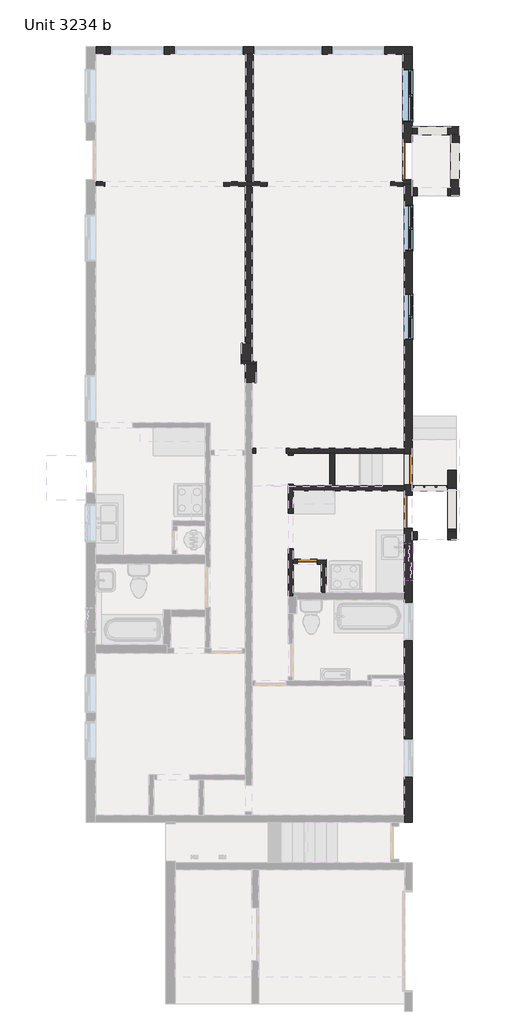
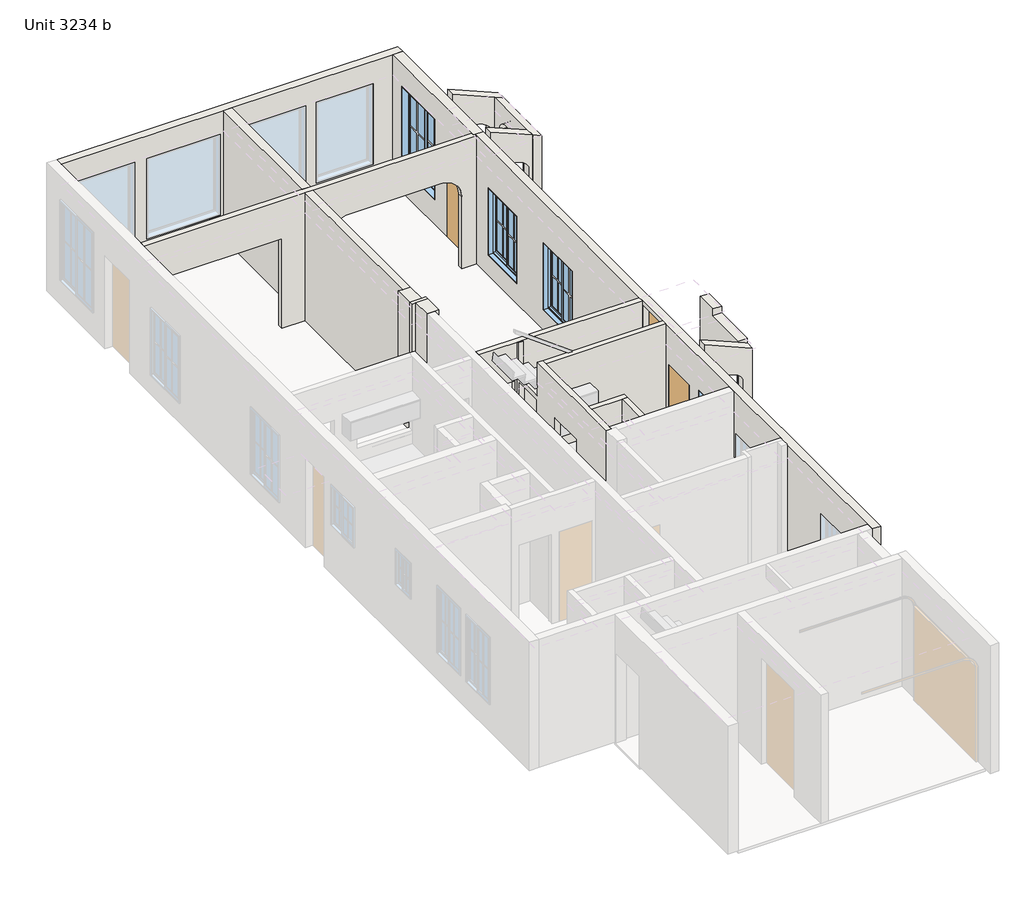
# One storey, part 2 of 3: 23 walls, 4 doors, 4 windows.
"""IFC4 building model written with IfcOpenShell, lengths in millimetres."""

from ifc_helpers import new_model, si_unit, point, frame, frame_2d, origin, origin_with_axes, place, context, project, spatial, polyline, circle_curve, trimmed, segment, composite_curve, outline, extrude, faceted_brep, transform, mapped, element, save
from ifc_brep_helpers import plane_surface, revolved_surface, advanced_brep
from components import door_06143b9a, door_70dd2ab3, door_c6f7bf39, door_4489987b, window_eecfb043, window_40bee93f, window_37b48831

model = new_model("IFC4")

# Units and contexts
model_context = context("Model", 3, world=origin())
ifc_project = project(units=[si_unit("LENGTHUNIT", "METRE", prefix="MILLI")], contexts=[model_context])

# Site, building, storey
site = spatial("IfcSite", under=ifc_project)
building = spatial("IfcBuilding", under=site)
storey = spatial("IfcBuildingStorey", under=building, Name="Unit 3234 b", Elevation=0.0)

# Doors
placement = place(None, origin())
door_shape = door_06143b9a(model_context)
element("IfcDoor", 1, ObjectType="Planitar - Single Door_Flush Panel : 1'-6\" x 6'-8\"", at=placement, inside=storey, context=model_context, shape_type="MappedRepresentation", body=[
    mapped(door_shape, transform((1578.5447598, 647.0538353, 0.0), x_axis=(1.0, 0.0, 0.0), y_axis=(0.0, 1.0, 0.0), z_axis=(0.0, 0.0, 1.0))),
])
door_2_shape = door_70dd2ab3(model_context)
element("IfcDoor", 2, ObjectType="Planitar - Single Door_Flush Panel : 2'-10\" x 6'-8\"", at=placement, inside=storey, context=model_context, shape_type="MappedRepresentation", body=[
    mapped(door_2_shape, transform((3886.7697598, 9892.6538353, 0.0), x_axis=(0.0, 1.0, 0.0), y_axis=(-1.0, 0.0, 0.0), z_axis=(0.0, 0.0, 1.0))),
])
door_3_shape = door_c6f7bf39(model_context)
element("IfcDoor", 3, ObjectType="Planitar - Single Door_Flush Panel : 2'-4\" x 6'-8\"", at=placement, inside=storey, context=model_context, shape_type="MappedRepresentation", body=[
    mapped(door_3_shape, transform((3905.8197598, 2780.6538353, 762.0), x_axis=(0.0, -1.0, 0.0), y_axis=(1.0, 0.0, 0.0), z_axis=(0.0, 0.0, 1.0))),
])
door_4_shape = door_4489987b(model_context)
element("IfcDoor", 4, ObjectType="Planitar - Single Door_Flush Panel : 2'-6\" x 6'-8\"", at=placement, inside=storey, context=model_context, shape_type="MappedRepresentation", body=[
    mapped(door_4_shape, transform((3905.8197598, 1802.7538353, 0.0), x_axis=(0.0, 1.0, 0.0), y_axis=(-1.0, 0.0, 0.0), z_axis=(0.0, 0.0, 1.0))),
])

# Walls
element("IfcWall", 5, ObjectType="Planitar - Generic 7\"", at=placement, inside=storey, context=model_context, shape_type="Brep", body=[
    faceted_brep([(-3301.4302402, 12350.1038353, 0.0), (159.3197598, 12350.1038353, 0.0), (337.1197598, 12350.1038353, 0.0), (3778.8197598, 12350.1038353, 0.0), (3994.7197598, 12350.1038353, 0.0), (3994.7197598, 12350.1038353, 2895.6), (3778.8197598, 12350.1038353, 2895.6), (337.1197598, 12350.1038353, 2895.6), (159.3197598, 12350.1038353, 2895.6), (-3301.4302402, 12350.1038353, 2895.6), (3366.0697598, 12350.1038353, 558.8), (2146.8697598, 12350.1038353, 558.8), (2146.8697598, 12350.1038353, 2387.6), (3366.0697598, 12350.1038353, 2387.6), (1924.6197598, 12350.1038353, 558.8), (349.8197598, 12350.1038353, 558.8), (349.8197598, 12350.1038353, 2387.6), (1924.6197598, 12350.1038353, 2387.6), (95.8197598, 12350.1038353, 558.8), (-1478.9802402, 12350.1038353, 558.8), (-1478.9802402, 12350.1038353, 2387.6), (95.8197598, 12350.1038353, 2387.6), (-1732.9802402, 12350.1038353, 558.8), (-2952.1802402, 12350.1038353, 558.8), (-2952.1802402, 12350.1038353, 2387.6), (-1732.9802402, 12350.1038353, 2387.6), (-3301.4302402, 12527.9038353, 0.0), (-3301.4302402, 12527.9038353, 2895.6), (3994.7197598, 12527.9038353, 2895.6), (3994.7197598, 12527.9038353, 0.0), (3366.0697598, 12527.9038353, 558.8), (3366.0697598, 12527.9038353, 2387.6), (2146.8697598, 12527.9038353, 2387.6), (2146.8697598, 12527.9038353, 558.8), (1924.6197598, 12527.9038353, 558.8), (1924.6197598, 12527.9038353, 2387.6), (349.8197598, 12527.9038353, 2387.6), (349.8197598, 12527.9038353, 558.8), (95.8197598, 12527.9038353, 558.8), (95.8197598, 12527.9038353, 2387.6), (-1478.9802402, 12527.9038353, 2387.6), (-1478.9802402, 12527.9038353, 558.8), (-1732.9802402, 12527.9038353, 558.8), (-1732.9802402, 12527.9038353, 2387.6), (-2952.1802402, 12527.9038353, 2387.6), (-2952.1802402, 12527.9038353, 558.8)], [[[0, 1, 2, 3, 4, 5, 6, 7, 8, 9], [10, 11, 12, 13], [14, 15, 16, 17], [18, 19, 20, 21], [22, 23, 24, 25]], [[26, 27, 28, 29], [30, 31, 32, 33], [34, 35, 36, 37], [38, 39, 40, 41], [42, 43, 44, 45]], [[4, 3, 2, 1, 0, 26, 29]], [[9, 8, 7, 6, 5, 28, 27]], [[5, 4, 29, 28]], [[0, 9, 27, 26]], [[31, 30, 10, 13]], [[32, 31, 13, 12]], [[33, 32, 12, 11]], [[30, 33, 11, 10]], [[35, 34, 14, 17]], [[36, 35, 17, 16]], [[37, 36, 16, 15]], [[34, 37, 15, 14]], [[39, 38, 18, 21]], [[40, 39, 21, 20]], [[41, 40, 20, 19]], [[38, 41, 19, 18]], [[43, 42, 22, 25]], [[44, 43, 25, 24]], [[45, 44, 24, 23]], [[42, 45, 23, 22]]]),
])
element("IfcWall", 6, ObjectType="Planitar - Generic 8 1/2\"", at=placement, inside=storey, context=model_context, shape_type="Brep", body=[
    faceted_brep([(3778.8197598, 12350.1038353, 0.0), (3778.8197598, 10324.4538353, 0.0), (3778.8197598, 10324.4538353, 2032.0), (3778.8197598, 9460.8538353, 2032.0), (3778.8197598, 9460.8538353, 0.0), (3778.8197598, 9416.4038353, 0.0), (3778.8197598, 9359.2538353, 0.0), (3778.8197598, 9359.2538353, 2895.6), (3778.8197598, 9416.4038353, 2895.6), (3778.8197598, 12350.1038353, 2895.6), (3778.8197598, 12007.2038353, 2387.6), (3778.8197598, 10788.0038353, 2387.6), (3778.8197598, 10788.0038353, 558.8), (3778.8197598, 12007.2038353, 558.8), (3994.7197598, 10324.4538353, 2032.0), (3994.7197598, 10324.4538353, 0.0), (3994.7197598, 10489.5538353, 0.0), (3994.7197598, 10680.0538353, 0.0), (3994.7197598, 12350.1038353, 0.0), (3994.7197598, 12350.1038353, 2895.6), (3994.7197598, 9359.2538353, 2895.6), (3994.7197598, 9359.2538353, 0.0), (3994.7197598, 9460.8538353, 0.0), (3994.7197598, 9460.8538353, 2032.0), (3994.7197598, 12007.2038353, 2387.6), (3994.7197598, 12007.2038353, 558.8), (3994.7197598, 10788.0038353, 558.8), (3994.7197598, 10788.0038353, 2387.6), (3816.9197598, 9359.2538353, 0.0), (3816.9197598, 9359.2538353, 2895.6)], [[[0, 1, 2, 3, 4, 5, 6, 7, 8, 9], [10, 11, 12, 13]], [[14, 15, 16, 17, 18, 19, 20, 21, 22, 23], [24, 25, 26, 27]], [[22, 21, 28, 6, 5, 4]], [[18, 17, 16, 15, 1, 0]], [[7, 6, 28, 21, 20, 29]], [[9, 8, 7, 29, 20, 19]], [[0, 9, 19, 18]], [[2, 1, 15, 14]], [[3, 2, 14, 23]], [[4, 3, 23, 22]], [[25, 24, 10, 13]], [[26, 25, 13, 12]], [[27, 26, 12, 11]], [[24, 27, 11, 10]]]),
])
element("IfcWall", 7, ObjectType="Planitar - Generic 7\"", at=placement, inside=storey, context=model_context, shape_type="Brep", body=[
    faceted_brep([(3816.9197598, 9359.2538353, 0.0), (3816.9197598, 9302.1038353, 0.0), (3816.9197598, 3269.6038353, 0.0), (3816.9197598, 3155.3038353, 0.0), (3816.9197598, 2406.0038353, 0.0), (3816.9197598, 2291.7038353, 0.0), (3816.9197598, 2183.7538353, 0.0), (3816.9197598, 2183.7538353, 2032.0), (3816.9197598, 1421.7538353, 2032.0), (3816.9197598, 1421.7538353, 0.0), (3816.9197598, -57.7961647, 0.0), (3816.9197598, -222.8961647, 0.0), (3816.9197598, -1962.7961647, 0.0), (3816.9197598, -2038.9961647, 0.0), (3816.9197598, -5188.5961647, 0.0), (3816.9197598, -5353.6961647, 0.0), (3816.9197598, -5353.6961647, 2895.6), (3816.9197598, -5188.5961647, 2895.6), (3816.9197598, -2038.9961647, 2895.6), (3816.9197598, -1962.7961647, 2895.6), (3816.9197598, -222.8961647, 2895.6), (3816.9197598, -57.7961647, 2895.6), (3816.9197598, 2291.7038353, 2895.6), (3816.9197598, 2406.0038353, 2895.6), (3816.9197598, 3155.3038353, 2895.6), (3816.9197598, 3269.6038353, 2895.6), (3816.9197598, 9302.1038353, 2895.6), (3816.9197598, 9359.2538353, 2895.6), (3816.9197598, 3136.2538353, 762.0), (3816.9197598, 3136.2538353, 2794.0), (3816.9197598, 2425.0538353, 2794.0), (3816.9197598, 2425.0538353, 762.0), (3816.9197598, -3442.3461647, 2082.8), (3816.9197598, -4305.9461647, 2082.8), (3816.9197598, -4305.9461647, 609.6), (3816.9197598, -3442.3461647, 609.6), (3816.9197598, -292.7461647, 1981.2), (3816.9197598, -1156.3461647, 1981.2), (3816.9197598, -1156.3461647, 914.4), (3816.9197598, -292.7461647, 914.4), (3816.9197598, 1078.8538353, 2133.6), (3816.9197598, 215.2538353, 2133.6), (3816.9197598, 215.2538353, 1219.2), (3816.9197598, 1078.8538353, 1219.2), (3816.9197598, 5765.1538353, 1981.2), (3816.9197598, 5765.1538353, 457.2), (3816.9197598, 6831.9538353, 457.2), (3816.9197598, 6831.9538353, 1981.2), (3816.9197598, 7809.8538353, 1981.2), (3816.9197598, 7809.8538353, 457.2), (3816.9197598, 8876.6538353, 457.2), (3816.9197598, 8876.6538353, 1981.2), (3994.7197598, 2183.7538353, 2032.0), (3994.7197598, 2183.7538353, 0.0), (3994.7197598, 2291.7038353, 0.0), (3994.7197598, 2406.0038353, 0.0), (3994.7197598, 3345.8038353, 0.0), (3994.7197598, 3460.1038353, 0.0), (3994.7197598, 9086.2038353, 0.0), (3994.7197598, 9276.7038353, 0.0), (3994.7197598, 9359.2538353, 0.0), (3994.7197598, 9359.2538353, 2895.6), (3994.7197598, -5353.6961647, 2895.6), (3994.7197598, -5353.6961647, 0.0), (3994.7197598, 1155.0538353, 0.0), (3994.7197598, 1345.5538353, 0.0), (3994.7197598, 1421.7538353, 0.0), (3994.7197598, 1421.7538353, 2032.0), (3994.7197598, 3136.2538353, 762.0), (3994.7197598, 2425.0538353, 762.0), (3994.7197598, 2425.0538353, 2794.0), (3994.7197598, 3136.2538353, 2794.0), (3994.7197598, -3442.3461647, 2082.8), (3994.7197598, -3442.3461647, 609.6), (3994.7197598, -4305.9461647, 609.6), (3994.7197598, -4305.9461647, 2082.8), (3994.7197598, -292.7461647, 1981.2), (3994.7197598, -292.7461647, 914.4), (3994.7197598, -1156.3461647, 914.4), (3994.7197598, -1156.3461647, 1981.2), (3994.7197598, 1078.8538353, 2133.6), (3994.7197598, 1078.8538353, 1219.2), (3994.7197598, 215.2538353, 1219.2), (3994.7197598, 215.2538353, 2133.6), (3994.7197598, 5765.1538353, 1981.2), (3994.7197598, 6831.9538353, 1981.2), (3994.7197598, 6831.9538353, 457.2), (3994.7197598, 5765.1538353, 457.2), (3994.7197598, 7809.8538353, 1981.2), (3994.7197598, 8876.6538353, 1981.2), (3994.7197598, 8876.6538353, 457.2), (3994.7197598, 7809.8538353, 457.2)], [[[0, 1, 2, 3, 4, 5, 6, 7, 8, 9, 10, 11, 12, 13, 14, 15, 16, 17, 18, 19, 20, 21, 22, 23, 24, 25, 26, 27], [28, 29, 30, 31], [32, 33, 34, 35], [36, 37, 38, 39], [40, 41, 42, 43], [44, 45, 46, 47], [48, 49, 50, 51]], [[52, 53, 54, 55, 56, 57, 58, 59, 60, 61, 62, 63, 64, 65, 66, 67], [68, 69, 70, 71], [72, 73, 74, 75], [76, 77, 78, 79], [80, 81, 82, 83], [84, 85, 86, 87], [88, 89, 90, 91]], [[60, 59, 58, 57, 56, 55, 54, 53, 6, 5, 4, 3, 2, 1, 0]], [[66, 65, 64, 63, 15, 14, 13, 12, 11, 10, 9]], [[27, 26, 25, 24, 23, 22, 21, 20, 19, 18, 17, 16, 62, 61]], [[0, 27, 61, 60]], [[16, 15, 63, 62]], [[69, 68, 28, 31]], [[70, 69, 31, 30]], [[71, 70, 30, 29]], [[68, 71, 29, 28]], [[7, 6, 53, 52]], [[8, 7, 52, 67]], [[9, 8, 67, 66]], [[73, 72, 32, 35]], [[74, 73, 35, 34]], [[75, 74, 34, 33]], [[72, 75, 33, 32]], [[77, 76, 36, 39]], [[78, 77, 39, 38]], [[79, 78, 38, 37]], [[76, 79, 37, 36]], [[81, 80, 40, 43]], [[82, 81, 43, 42]], [[83, 82, 42, 41]], [[80, 83, 41, 40]], [[45, 44, 84, 87]], [[46, 45, 87, 86]], [[47, 46, 86, 85]], [[44, 47, 85, 84]], [[49, 48, 88, 91]], [[50, 49, 91, 90]], [[51, 50, 90, 89]], [[48, 51, 89, 88]]]),
])
element("IfcWall", 8, ObjectType="Planitar - Generic 10\"", at=placement, inside=storey, context=model_context, shape_type="Brep", body=[
    faceted_brep([(400.6197598, 4780.9038353, 0.0), (400.6197598, 5200.0038353, 0.0), (400.6197598, 5200.0038353, 2895.6), (400.6197598, 4780.9038353, 2895.6), (146.6197598, 4780.9038353, 0.0), (146.6197598, 4780.9038353, 2895.6), (146.6197598, 5200.0038353, 2895.6), (146.6197598, 5200.0038353, 0.0), (311.7197598, 4780.9038353, 0.0), (311.7197598, 4780.9038353, 2895.6)], [[[0, 1, 2, 3]], [[4, 5, 6, 7]], [[1, 0, 8, 4, 7]], [[2, 1, 7, 6]], [[3, 2, 6, 5, 9]], [[0, 3, 9, 5, 4, 8]]]),
])
element("IfcWall", 9, ObjectType="Planitar - Generic 1' - 1 1/2\"", at=placement, inside=storey, context=model_context, shape_type="Brep", body=[
    faceted_brep([(400.6197598, 5200.0038353, 0.0), (400.6197598, 5269.8538353, 0.0), (400.6197598, 5269.8538353, 2895.6), (400.6197598, 5200.0038353, 2895.6), (57.7197598, 5200.0038353, 0.0), (57.7197598, 5200.0038353, 2895.6), (57.7197598, 5269.8538353, 2895.6), (57.7197598, 5269.8538353, 0.0), (146.6197598, 5200.0038353, 0.0), (311.7197598, 5269.8538353, 0.0), (311.7197598, 5269.8538353, 2895.6), (146.6197598, 5200.0038353, 2895.6)], [[[0, 1, 2, 3]], [[4, 5, 6, 7]], [[1, 0, 8, 4, 7, 9]], [[2, 1, 9, 7, 6, 10]], [[3, 2, 10, 6, 5, 11]], [[0, 3, 11, 5, 4, 8]]]),
])
element("IfcWall", 10, ObjectType="Planitar - Generic 10\"", at=placement, inside=storey, context=model_context, shape_type="Brep", body=[
    faceted_brep([(311.7197598, 5269.8538353, 0.0), (311.7197598, 5688.9538353, 0.0), (311.7197598, 5688.9538353, 2895.6), (311.7197598, 5269.8538353, 2895.6), (57.7197598, 5269.8538353, 0.0), (57.7197598, 5269.8538353, 2895.6), (57.7197598, 5688.9538353, 2895.6), (57.7197598, 5688.9538353, 0.0), (146.6197598, 5688.9538353, 0.0), (146.6197598, 5688.9538353, 2895.6)], [[[0, 1, 2, 3]], [[4, 5, 6, 7]], [[1, 0, 4, 7, 8]], [[2, 1, 8, 7, 6, 9]], [[3, 2, 9, 6, 5]], [[0, 3, 5, 4]]]),
])
element("IfcWall", 11, ObjectType="Planitar - Generic 6 1/2\"", at=placement, inside=storey, context=model_context, shape_type="SweptSolid", body=[
    extrude(outline(polyline([(311.7197598, 9302.1038353), (311.7197598, 5688.9538353), (146.6197598, 5688.9538353), (146.6197598, 9302.1038353), (311.7197598, 9302.1038353)])), origin_with_axes(), (0.0, 0.0, 1.0), 2895.6),
])
element("IfcWall", 12, ObjectType="Planitar - Generic 4 1/2\"", at=placement, inside=storey, context=model_context, shape_type="AdvancedBrep", body=[
    advanced_brep(
    [(654.6197598, 9416.4038353, 0.0), (337.1197598, 9416.4038353, 0.0), (159.3197598, 9416.4038353, 0.0), (-348.6802402, 9416.4038353, 0.0), (-348.6802402, 9416.4038353, 2032.0), (-3091.8802402, 9416.4038353, 2032.0), (-3091.8802402, 9416.4038353, 0.0), (-3301.4302402, 9416.4038353, 0.0), (-3301.4302402, 9416.4038353, 2895.6), (159.3197598, 9416.4038353, 2895.6), (337.1197598, 9416.4038353, 2895.6), (3778.8197598, 9416.4038353, 2895.6), (3778.8197598, 9416.4038353, 0.0), (3499.4197598, 9416.4038353, 0.0), (3499.4197598, 9416.4038353, 1625.6), (3042.2197598, 9416.4038353, 2082.8), (1111.8197598, 9416.4038353, 2082.8), (654.6197598, 9416.4038353, 1625.6), (-348.6802402, 9302.1038353, 2032.0), (-348.6802402, 9302.1038353, 0.0), (146.6197598, 9302.1038353, 0.0), (311.7197598, 9302.1038353, 0.0), (654.6197598, 9302.1038353, 0.0), (654.6197598, 9302.1038353, 1625.6), (1111.8197598, 9302.1038353, 2082.8), (3042.2197598, 9302.1038353, 2082.8), (3499.4197598, 9302.1038353, 1625.6), (3499.4197598, 9302.1038353, 0.0), (3816.9197598, 9302.1038353, 0.0), (3816.9197598, 9302.1038353, 2895.6), (311.7197598, 9302.1038353, 2895.6), (146.6197598, 9302.1038353, 2895.6), (-3301.4302402, 9302.1038353, 2895.6), (-3301.4302402, 9302.1038353, 0.0), (-3091.8802402, 9302.1038353, 0.0), (-3091.8802402, 9302.1038353, 2032.0), (3778.8197598, 9359.2538353, 2895.6), (3778.8197598, 9359.2538353, 0.0), (3816.9197598, 9359.2538353, 0.0), (3816.9197598, 9359.2538353, 2895.6)],
    [
        (0, 1),
        (1, 2),
        (2, 3),
        (3, 4),
        (4, 5),
        (5, 6),
        (6, 7),
        (7, 8),
        (8, 9),
        (9, 10),
        (10, 11),
        (11, 12),
        (12, 13),
        (13, 14),
        (14, 15, circle_curve(frame((3042.2197598, 9416.4038353, 1625.6), z_axis=(0.0, -1.0, 0.0), x_axis=(1.0, 0.0, 0.0)), 457.2)),
        (15, 16),
        (16, 17, circle_curve(frame((1111.8197598, 9416.4038353, 1625.6), z_axis=(0.0, -1.0, 0.0), x_axis=(1.0, 0.0, 0.0)), 457.2)),
        (17, 0),
        (18, 19),
        (19, 20),
        (20, 21),
        (21, 22),
        (22, 23),
        (23, 24, circle_curve(frame((1111.8197598, 9302.1038353, 1625.6), z_axis=(0.0, 1.0, 0.0), x_axis=(1.0, 0.0, 0.0)), 457.2)),
        (24, 25),
        (25, 26, circle_curve(frame((3042.2197598, 9302.1038353, 1625.6), z_axis=(0.0, 1.0, 0.0), x_axis=(1.0, 0.0, 0.0)), 457.2)),
        (26, 27),
        (27, 28),
        (28, 29),
        (29, 30),
        (30, 31),
        (31, 32),
        (32, 33),
        (33, 34),
        (34, 35),
        (35, 18),
        (11, 36),
        (36, 37),
        (37, 12),
        (7, 33),
        (32, 8),
        (5, 35),
        (34, 6),
        (3, 19),
        (18, 4),
        (37, 38),
        (38, 28),
        (27, 13),
        (29, 39),
        (39, 36),
        (39, 38),
        (26, 14),
        (25, 15),
        (24, 16),
        (23, 17),
        (22, 0),
    ],
    [
        plane_surface(frame((3817.5689763, 9416.4038353, 0.0), z_axis=(0.0, 1.0, 0.0), x_axis=(-1.0, 0.0, 0.0))),
        plane_surface(frame((3817.5689763, 9302.1038353, 0.0), z_axis=(0.0, -1.0, 0.0), x_axis=(1.0, 0.0, 0.0))),
        plane_surface(frame((3778.8197598, 13016.8538353, -144.78), z_axis=(1.0, 0.0, 0.0), x_axis=(0.0, 1.0, 0.0))),
        plane_surface(frame((-3301.4302402, 12527.9038353, 0.0), z_axis=(-1.0, 0.0, 0.0), x_axis=(0.0, 1.0, 0.0))),
        plane_surface(frame((-3091.8802402, 9416.4038353, 2032.0), z_axis=(1.0, 0.0, 0.0), x_axis=(0.0, -1.0, 0.0))),
        plane_surface(frame((-348.6802402, 9416.4038353, 0.0), z_axis=(-1.0, 0.0, 0.0), x_axis=(0.0, -1.0, 0.0))),
        plane_surface(frame((-348.6802402, 9416.4038353, 2032.0), z_axis=(0.0, 0.0, -1.0), x_axis=(0.0, -1.0, 0.0))),
        plane_surface(frame((3905.8197598, 9416.4038353, 0.0), z_axis=(0.0, 0.0, -1.0), x_axis=(0.0, -1.0, 0.0))),
        plane_surface(frame((-3409.3802402, 9416.4038353, 2895.6), z_axis=(0.0, 0.0, 1.0), x_axis=(0.0, -1.0, 0.0))),
        plane_surface(frame((3797.8697598, 9359.2538353, -144.78), z_axis=(0.0, 1.0, 0.0), x_axis=(-1.0, 0.0, 0.0))),
        plane_surface(frame((3816.9197598, 2044.0538353, -144.78), z_axis=(1.0, 0.0, 0.0), x_axis=(0.0, 1.0, 0.0))),
        plane_surface(frame((3499.4197598, 9416.4038353, 0.0), z_axis=(-1.0, 0.0, 0.0), x_axis=(0.0, -1.0, 0.0))),
        revolved_surface(polyline([(3499.4197597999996, 9302.1038353, 1625.6), (3499.4197597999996, 9416.4038353, 1625.6)]), (3042.2197598, 9302.1038353, 1625.6), (0.0, -1.0, 0.0)),
        plane_surface(frame((3042.2197598, 9416.4038353, 2082.8), z_axis=(0.0, 0.0, -1.0), x_axis=(0.0, -1.0, 0.0))),
        revolved_surface(polyline([(1569.0197598, 9302.1038353, 1625.6), (1569.0197598, 9416.4038353, 1625.6)]), (1111.8197598, 9302.1038353, 1625.6), (0.0, -1.0, 0.0)),
        plane_surface(frame((654.6197598, 9416.4038353, 1625.6), z_axis=(1.0, 0.0, 0.0), x_axis=(0.0, -1.0, 0.0))),
        plane_surface(frame((654.6197598, 9416.4038353, 0.0), z_axis=(0.0, 0.0, -1.0), x_axis=(0.0, -1.0, 0.0))),
    ],
    [
        (0, [[1, 2, 3, 4, 5, 6, 7, 8, 9, 10, 11, 12, 13, 14, 15, 16, 17, 18]]),
        (1, [[19, 20, 21, 22, 23, 24, 25, 26, 27, 28, 29, 30, 31, 32, 33, 34, 35, 36]]),
        (2, [[-12, 37, 38, 39]]),
        (3, [[-8, 40, -33, 41]]),
        (4, [[-6, 42, -35, 43]]),
        (5, [[-4, 44, -19, 45]]),
        (6, [[-5, -45, -36, -42]]),
        (7, [[-13, -39, 46, 47, -28, 48]]),
        (8, [[-11, -10, -9, -41, -32, -31, -30, 49, 50, -37]]),
        (9, [[-50, 51, -46, -38]]),
        (10, [[-49, -29, -47, -51]]),
        (11, [[-14, -48, -27, 52]]),
        (12, [[-15, -52, -26, 53]]),
        (13, [[-16, -53, -25, 54]]),
        (14, [[-17, -54, -24, 55]]),
        (15, [[-18, -55, -23, 56]]),
        (16, [[-34, -40, -7, -43]]),
        (16, [[-22, -21, -20, -44, -3, -2, -1, -56]]),
    ],
),
])
element("IfcWall", 13, ObjectType="Planitar - Generic 7\"", at=placement, inside=storey, context=model_context, shape_type="SweptSolid", body=[
    extrude(outline(polyline([(337.1197598, 12350.1038353), (337.1197598, 9416.4038353), (159.3197598, 9416.4038353), (159.3197598, 12350.1038353), (337.1197598, 12350.1038353)])), origin_with_axes(), (0.0, 0.0, 1.0), 2895.6),
])
element("IfcWall", 14, ObjectType="Planitar - Generic 4 1/2\"", at=placement, inside=storey, context=model_context, shape_type="Brep", body=[
    faceted_brep([(1251.5197598, 3155.3038353, 2895.6), (1251.5197598, 3125.26538, 2895.6), (1251.5197598, 3125.26538, 2134.4), (1251.5197598, 2406.0038353, 2134.4), (1251.5197598, 2406.0038353, 2895.6), (1251.5197598, 2291.7038353, 2895.6), (1251.5197598, 704.2038353, 2895.6), (1251.5197598, 589.9038353, 2895.6), (1251.5197598, -57.7961647, 2895.6), (1251.5197598, -140.3461647, 2895.6), (1251.5197598, -140.3461647, 0.0), (1251.5197598, -57.7961647, 0.0), (1251.5197598, 589.9038353, 0.0), (1251.5197598, 704.2038353, 0.0), (1251.5197598, 951.8538353, 0.0), (1251.5197598, 951.8538353, 2032.0), (1251.5197598, 1764.6538353, 2032.0), (1251.5197598, 1764.6538353, 0.0), (1251.5197598, 2291.7038353, 0.0), (1251.5197598, 2406.0038353, 0.0), (1251.5197598, 2440.9288353, 0.0), (1251.5197598, 2440.9288353, 2032.0), (1251.5197598, 3101.3288353, 2032.0), (1251.5197598, 3101.3288353, 0.0), (1251.5197598, 3155.3038353, 0.0), (1137.2197598, 3125.26538, 2895.6), (1137.2197598, 3155.3038353, 2895.6), (1137.2197598, 3155.3038353, 0.0), (1137.2197598, 3101.3288353, 0.0), (1137.2197598, 3101.3288353, 2032.0), (1137.2197598, 2440.9288353, 2032.0), (1137.2197598, 2440.9288353, 0.0), (1137.2197598, 1764.6538353, 0.0), (1137.2197598, 1764.6538353, 2032.0), (1137.2197598, 951.8538353, 2032.0), (1137.2197598, 951.8538353, 0.0), (1137.2197598, -140.3461647, 0.0), (1137.2197598, -140.3461647, 2895.6), (1137.2197598, 2406.0038353, 2895.6), (1137.2197598, 2406.0038353, 2134.4), (1137.2197598, 3125.26538, 2134.4)], [[[0, 1, 2, 3, 4, 5, 6, 7, 8, 9, 10, 11, 12, 13, 14, 15, 16, 17, 18, 19, 20, 21, 22, 23, 24]], [[25, 26, 27, 28, 29, 30, 31, 32, 33, 34, 35, 36, 37, 38, 39, 40]], [[0, 24, 27, 26]], [[17, 16, 33, 32]], [[15, 14, 35, 34]], [[16, 15, 34, 33]], [[17, 32, 31, 20, 19, 18]], [[35, 14, 13, 12, 11, 10, 36]], [[27, 24, 23, 28]], [[1, 0, 26, 25]], [[10, 9, 37, 36]], [[2, 1, 25, 40]], [[3, 2, 40, 39]], [[9, 8, 7, 6, 5, 4, 38, 37]], [[4, 3, 39, 38]], [[22, 29, 28, 23]], [[30, 21, 20, 31]], [[29, 22, 21, 30]]]),
])
element("IfcWall", 15, ObjectType="Planitar - Generic 4 1/2\"", at=placement, inside=storey, context=model_context, shape_type="Brep", body=[
    faceted_brep([(1251.5197598, 2291.7038353, 2895.6), (1251.5197598, 2291.7038353, 0.0), (3816.9197598, 2291.7038353, 0.0), (3816.9197598, 2291.7038353, 2895.6), (1251.5197598, 2406.0038353, 0.0), (1251.5197598, 2406.0038353, 2134.4), (1251.5197598, 2406.0038353, 2895.6), (3816.9197598, 2406.0038353, 2895.6), (3816.9197598, 2406.0038353, 0.0), (2207.5882314, 2406.0038353, 0.0), (2093.2882314, 2406.0038353, 0.0)], [[[0, 1, 2, 3]], [[4, 5, 6, 7, 8, 9, 10]], [[2, 1, 4, 10, 9, 8]], [[0, 3, 7, 6]], [[3, 2, 8, 7]], [[0, 6, 5, 4, 1]]]),
])
element("IfcWall", 16, ObjectType="Planitar - Generic 4 1/2\"", at=placement, inside=storey, context=model_context, shape_type="Brep", body=[
    faceted_brep([(1807.1447598, 589.9038353, 2032.0), (1807.1447598, 589.9038353, 0.0), (1899.2197598, 589.9038353, 0.0), (2013.5197598, 589.9038353, 0.0), (2013.5197598, 589.9038353, 2895.6), (1899.2197598, 589.9038353, 2895.6), (1251.5197598, 589.9038353, 2895.6), (1251.5197598, 589.9038353, 0.0), (1349.9447598, 589.9038353, 0.0), (1349.9447598, 589.9038353, 2032.0), (2013.5197598, 704.2038353, 0.0), (1807.1447598, 704.2038353, 0.0), (1807.1447598, 704.2038353, 2032.0), (1349.9447598, 704.2038353, 2032.0), (1349.9447598, 704.2038353, 0.0), (1251.5197598, 704.2038353, 0.0), (1251.5197598, 704.2038353, 2895.6), (2013.5197598, 704.2038353, 2895.6)], [[[0, 1, 2, 3, 4, 5, 6, 7, 8, 9]], [[10, 11, 12, 13, 14, 15, 16, 17]], [[8, 7, 15, 14]], [[3, 2, 1, 11, 10]], [[6, 5, 4, 17, 16]], [[7, 6, 16, 15]], [[4, 3, 10, 17]], [[12, 11, 1, 0]], [[13, 12, 0, 9]], [[14, 13, 9, 8]]]),
])
element("IfcWall", 17, ObjectType="Planitar - Generic 4 1/2\"", at=placement, inside=storey, context=model_context, shape_type="SweptSolid", body=[
    extrude(outline(polyline([(1899.2197598, -57.7961647), (1899.2197598, 589.9038353), (2013.5197598, 589.9038353), (2013.5197598, -57.7961647), (1899.2197598, -57.7961647)])), origin_with_axes(), (0.0, 0.0, 1.0), 2895.6),
])
element("IfcWall", 18, ObjectType="Planitar - Generic 4 1/2\"", at=placement, inside=storey, context=model_context, shape_type="Brep", body=[
    faceted_brep([(387.9197598, 3269.6038353, 2032.0), (387.9197598, 3269.6038353, 0.0), (311.7197598, 3269.6038353, 0.0), (311.7197598, 3269.6038353, 2895.6), (3816.9197598, 3269.6038353, 2895.6), (3816.9197598, 3269.6038353, 0.0), (1099.1197598, 3269.6038353, 0.0), (1099.1197598, 3269.6038353, 2032.0), (311.7197598, 3155.3038353, 0.0), (387.9197598, 3155.3038353, 0.0), (387.9197598, 3155.3038353, 2032.0), (1099.1197598, 3155.3038353, 2032.0), (1099.1197598, 3155.3038353, 0.0), (1137.2197598, 3155.3038353, 0.0), (1251.5197598, 3155.3038353, 0.0), (2093.2882314, 3155.3038353, 0.0), (2207.5882314, 3155.3038353, 0.0), (3816.9197598, 3155.3038353, 0.0), (3816.9197598, 3155.3038353, 2895.6), (1251.5197598, 3155.3038353, 2895.6), (1137.2197598, 3155.3038353, 2895.6), (311.7197598, 3155.3038353, 2895.6)], [[[0, 1, 2, 3, 4, 5, 6, 7]], [[8, 9, 10, 11, 12, 13, 14, 15, 16, 17, 18, 19, 20, 21]], [[6, 5, 17, 16, 15, 14, 13, 12]], [[2, 1, 9, 8]], [[4, 3, 21, 20, 19, 18]], [[5, 4, 18, 17]], [[3, 2, 8, 21]], [[12, 11, 7, 6]], [[10, 9, 1, 0]], [[11, 10, 0, 7]]]),
])
element("IfcWall", 19, ObjectType="Planitar - Generic 7 1/2\"", at=placement, inside=storey, context=model_context, shape_type="AdvancedBrep", body=[
    advanced_brep(
    [(3994.7197598, 10489.5538353, 0.0), (4890.0697598, 10489.5538353, 0.0), (5080.5697598, 10489.5538353, 0.0), (5080.5697598, 10489.5538353, 2590.8), (4890.0697598, 10489.5538353, 2671.0105263), (3994.7197598, 10489.5538353, 3048.0), (4109.0197598, 10489.5538353, 1981.2), (4820.2197598, 10489.5538353, 1981.2), (4820.2197598, 10489.5538353, 660.4), (4109.0197598, 10489.5538353, 660.4), (3994.7197598, 10680.0538353, 0.0), (3994.7197598, 10680.0538353, 3048.0), (5080.5697598, 10680.0538353, 2590.8), (5080.5697598, 10680.0538353, 0.0), (4109.0197598, 10680.0538353, 1981.2), (4109.0197598, 10680.0538353, 660.4), (4820.2197598, 10680.0538353, 660.4), (4820.2197598, 10680.0538353, 1981.2)],
    [
        (0, 1),
        (1, 2),
        (2, 3),
        (3, 4),
        (4, 5),
        (5, 0),
        (6, 7, circle_curve(frame((4464.6197598, 10489.5538353, 1771.65), z_axis=(0.0, 1.0, 0.0), x_axis=(-1.0, 0.0, 0.0)), 412.75)),
        (7, 8),
        (8, 9),
        (9, 6),
        (10, 11),
        (11, 12),
        (12, 13),
        (13, 10),
        (14, 15),
        (15, 16),
        (16, 17),
        (17, 14, circle_curve(frame((4464.6197598, 10680.0538353, 1771.65), z_axis=(0.0, -1.0, 0.0), x_axis=(-1.0, 0.0, 0.0)), 412.75)),
        (5, 11),
        (10, 0),
        (2, 13),
        (12, 3),
        (6, 14),
        (17, 7),
        (16, 8),
        (15, 9),
    ],
    [
        plane_surface(frame((3886.7697598, 10489.5538353, 0.0), z_axis=(0.0, -1.0, 0.0), x_axis=(1.0, 0.0, 0.0))),
        plane_surface(frame((3886.7697598, 10680.0538353, 0.0), z_axis=(0.0, 1.0, 0.0), x_axis=(-1.0, 0.0, 0.0))),
        plane_surface(frame((3994.7197598, 12527.9038353, 0.0), z_axis=(-1.0, 0.0, 0.0), x_axis=(0.0, 1.0, 0.0))),
        plane_surface(frame((5080.5697598, 10489.5538353, 0.0), z_axis=(1.0, 0.0, 0.0), x_axis=(0.0, 1.0, 0.0))),
        plane_surface(frame((3886.7697598, 10489.5538353, 0.0), z_axis=(0.0, 0.0, -1.0), x_axis=(0.0, 1.0, 0.0))),
        revolved_surface(polyline([(4051.8697598, 10680.0538353, 1771.65), (4051.8697598, 10489.5538353, 1771.65)]), (4464.6197598, 10584.8038353, 1771.65), (0.0, 1.0, 0.0)),
        plane_surface(frame((4820.2197598, 10489.5538353, 1981.2), z_axis=(-1.0, 0.0, 0.0), x_axis=(0.0, 1.0, 0.0))),
        plane_surface(frame((4820.2197598, 10489.5538353, 660.4), z_axis=(0.0, 0.0, 1.0), x_axis=(0.0, 1.0, 0.0))),
        plane_surface(frame((4109.0197598, 10489.5538353, 660.4), z_axis=(1.0, 0.0, 0.0), x_axis=(0.0, 1.0, 0.0))),
        plane_surface(frame((5080.5697598, 10680.0538353, 2590.8), z_axis=(0.38805700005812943, 0.0, 0.9216353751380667), x_axis=(0.0, 1.0, 0.0))),
    ],
    [
        (0, [[1, 2, 3, 4, 5, 6], [7, 8, 9, 10]]),
        (1, [[11, 12, 13, 14], [15, 16, 17, 18]]),
        (2, [[-6, 19, -11, 20]]),
        (3, [[-3, 21, -13, 22]]),
        (4, [[-2, -1, -20, -14, -21]]),
        (5, [[-7, 23, -18, 24]]),
        (6, [[-8, -24, -17, 25]]),
        (7, [[-9, -25, -16, 26]]),
        (8, [[-10, -26, -15, -23]]),
        (9, [[-5, -4, -22, -12, -19]]),
    ],
),
])
element("IfcWall", 20, ObjectType="Planitar - Generic 7 1/2\"", at=placement, inside=storey, context=model_context, shape_type="AdvancedBrep", body=[
    advanced_brep(
    [(4890.0697598, 10489.5538353, 0.0), (4890.0697598, 9276.7038353, 0.0), (4890.0697598, 9086.2038353, 0.0), (4890.0697598, 9086.2038353, 2671.0105263), (4890.0697598, 9276.7038353, 2671.0105263), (4890.0697598, 10489.5538353, 2671.0105263), (4890.0697598, 9460.8538353, 2032.0), (4890.0697598, 9460.8538353, 660.4), (4890.0697598, 10324.4538353, 660.4), (4890.0697598, 10324.4538353, 2032.0), (4890.0697598, 10095.8538353, 2260.6), (4890.0697598, 9689.4538353, 2260.6), (5080.5697598, 10489.5538353, 0.0), (5080.5697598, 10489.5538353, 2590.8), (5080.5697598, 9086.2038353, 2590.8), (5080.5697598, 9086.2038353, 0.0), (5080.5697598, 9460.8538353, 2032.0), (5080.5697598, 9689.4538353, 2260.6), (5080.5697598, 10095.8538353, 2260.6), (5080.5697598, 10324.4538353, 2032.0), (5080.5697598, 10324.4538353, 660.4), (5080.5697598, 9460.8538353, 660.4)],
    [
        (0, 1),
        (1, 2),
        (2, 3),
        (3, 4),
        (4, 5),
        (5, 0),
        (6, 7),
        (7, 8),
        (8, 9),
        (9, 10, circle_curve(frame((4890.0697598, 10095.8538353, 2032.0), z_axis=(1.0, 0.0, 0.0), x_axis=(0.0, 1.0, 0.0)), 228.6)),
        (10, 11),
        (11, 6, circle_curve(frame((4890.0697598, 9689.4538353, 2032.0), z_axis=(1.0, 0.0, 0.0), x_axis=(0.0, 1.0, 0.0)), 228.6)),
        (12, 13),
        (13, 14),
        (14, 15),
        (15, 12),
        (16, 17, circle_curve(frame((5080.5697598, 9689.4538353, 2032.0), z_axis=(-1.0, 0.0, 0.0), x_axis=(0.0, 1.0, 0.0)), 228.6)),
        (17, 18),
        (18, 19, circle_curve(frame((5080.5697598, 10095.8538353, 2032.0), z_axis=(-1.0, 0.0, 0.0), x_axis=(0.0, 1.0, 0.0)), 228.6)),
        (19, 20),
        (20, 21),
        (21, 16),
        (5, 13),
        (12, 0),
        (2, 15),
        (14, 3),
        (6, 16),
        (21, 7),
        (20, 8),
        (19, 9),
        (18, 10),
        (17, 11),
    ],
    [
        plane_surface(frame((4890.0697598, 10489.5538353, 0.0), z_axis=(-1.0, 0.0, 0.0), x_axis=(0.0, -1.0, 0.0))),
        plane_surface(frame((5080.5697598, 10489.5538353, 0.0), z_axis=(1.0, 0.0, 0.0), x_axis=(0.0, 1.0, 0.0))),
        plane_surface(frame((3886.7697598, 10489.5538353, 0.0), z_axis=(0.0, 1.0, 0.0), x_axis=(1.0, 0.0, 0.0))),
        plane_surface(frame((4820.2197598, 9086.2038353, 0.0), z_axis=(0.0, -1.0, 0.0), x_axis=(1.0, 0.0, 0.0))),
        plane_surface(frame((4890.0697598, 10584.8038353, 0.0), z_axis=(0.0, 0.0, -1.0), x_axis=(1.0, 0.0, 0.0))),
        plane_surface(frame((4890.0697598, 9460.8538353, 2032.0), z_axis=(0.0, 1.0, 0.0), x_axis=(1.0, 0.0, 0.0))),
        plane_surface(frame((4890.0697598, 9460.8538353, 660.4), z_axis=(0.0, 0.0, 1.0), x_axis=(1.0, 0.0, 0.0))),
        plane_surface(frame((4890.0697598, 10324.4538353, 660.4), z_axis=(0.0, -1.0, 0.0), x_axis=(1.0, 0.0, 0.0))),
        revolved_surface(polyline([(5080.5697598, 10324.4538353, 2032.0), (4890.0697598, 10324.4538353, 2032.0)]), (4985.3197598, 10095.8538353, 2032.0), (1.0, 0.0, 0.0)),
        plane_surface(frame((4890.0697598, 10095.8538353, 2260.6), z_axis=(0.0, 0.0, -1.0), x_axis=(1.0, 0.0, 0.0))),
        revolved_surface(polyline([(5080.5697598, 9918.053835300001, 2032.0), (4890.0697598, 9918.053835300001, 2032.0)]), (4985.3197598, 9689.4538353, 2032.0), (1.0, 0.0, 0.0)),
        plane_surface(frame((5080.5697598, 10680.0538353, 2590.8), z_axis=(0.38805700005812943, 0.0, 0.9216353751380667), x_axis=(0.0, 1.0, 0.0))),
    ],
    [
        (0, [[1, 2, 3, 4, 5, 6], [7, 8, 9, 10, 11, 12]]),
        (1, [[13, 14, 15, 16], [17, 18, 19, 20, 21, 22]]),
        (2, [[-6, 23, -13, 24]]),
        (3, [[-3, 25, -15, 26]]),
        (4, [[-2, -1, -24, -16, -25]]),
        (5, [[-7, 27, -22, 28]]),
        (6, [[-8, -28, -21, 29]]),
        (7, [[-9, -29, -20, 30]]),
        (8, [[-10, -30, -19, 31]]),
        (9, [[-11, -31, -18, 32]]),
        (10, [[-12, -32, -17, -27]]),
        (11, [[-5, -4, -26, -14, -23]]),
    ],
),
])
element("IfcWall", 21, ObjectType="Planitar - Generic 7 1/2\"", at=placement, inside=storey, context=model_context, shape_type="SweptSolid", body=[
    extrude(outline(composite_curve([segment(polyline([(0.0, 4890.0697598), (2671.0105263, 4890.0697598), (3048.0, 3994.7197598), (0.0, 3994.7197598), (0.0, 4109.0197598), (1981.2, 4109.0197598)]), True, "CONTINUOUS"), segment(trimmed(circle_curve(frame_2d((1771.65, 4464.6197598)), 412.75), [point((1981.2, 4109.0197598))], [point((1981.2, 4820.2197598))], True, "CARTESIAN"), True, "CONTINUOUS"), segment(polyline([(1981.2, 4820.2197598), (0.0, 4820.2197598), (0.0, 4890.0697598)]), True, "CONTINUOUS")], self_intersect=False)), frame((0.0, 9086.2038353, 0.0), z_axis=(0.0, 1.0, 0.0), x_axis=(0.0, 0.0, 1.0)), (0.0, 0.0, 1.0), 190.5),
])
element("IfcWall", 22, ObjectType="Planitar - Generic 7 1/2\"", at=placement, inside=storey, context=model_context, shape_type="AdvancedBrep", body=[
    advanced_brep(
    [(5010.7197598, 1345.5538353, 2728.5985301), (5010.7197598, 1345.5538353, 2620.2105263), (5010.7197598, 1345.5538353, 0.0), (5010.7197598, 2758.1720094, 0.0), (5010.7197598, 2758.1720094, 2880.9985301), (5010.7197598, 2291.7038353, 2880.9985301), (5010.7197598, 2291.7038353, 2728.5985301), (5010.7197598, 2348.8538353, 762.0), (5010.7197598, 1402.7038353, 762.0), (5010.7197598, 1402.7038353, 1981.2), (5010.7197598, 2348.8538353, 2016.4413558), (4820.2197598, 1345.5538353, 0.0), (4820.2197598, 1345.5538353, 1981.2), (4820.2197598, 1345.5538353, 2728.5985301), (4820.2197598, 2291.7038353, 2728.5985301), (4820.2197598, 2291.7038353, 2880.9985301), (4820.2197598, 2758.1720094, 2880.9985301), (4820.2197598, 2758.1720094, 0.0), (4820.2197598, 2406.0038353, 0.0), (4820.2197598, 2291.7038353, 0.0), (4820.2197598, 2348.8538353, 762.0), (4820.2197598, 2348.8538353, 2016.4413558), (4820.2197598, 1402.7038353, 1981.2), (4820.2197598, 1402.7038353, 762.0), (4820.2197598, 2291.7038353, 762.0)],
    [
        (0, 1),
        (1, 2),
        (2, 3),
        (3, 4),
        (4, 5),
        (5, 6),
        (6, 0),
        (7, 8),
        (8, 9),
        (9, 10, circle_curve(frame((5010.7197598, 1898.0038353, 1402.1301337), z_axis=(-1.0, 0.0, 0.0), x_axis=(0.0, -1.0, 0.0)), 762.0)),
        (10, 7),
        (11, 12),
        (12, 13),
        (13, 14),
        (14, 15),
        (15, 16),
        (16, 17),
        (17, 18),
        (18, 19),
        (19, 11),
        (20, 21),
        (21, 22, circle_curve(frame((4820.2197598, 1898.0038353, 1402.1301337), z_axis=(1.0, 0.0, 0.0), x_axis=(0.0, -1.0, 0.0)), 762.0)),
        (22, 23),
        (23, 24),
        (24, 20),
        (2, 11),
        (17, 3),
        (16, 4),
        (6, 14),
        (13, 0),
        (7, 20),
        (23, 8),
        (22, 9),
        (21, 10),
        (15, 5),
    ],
    [
        plane_surface(frame((5010.7197598, 1250.3038353, 0.0), z_axis=(1.0, 0.0, 0.0), x_axis=(0.0, 1.0, 0.0))),
        plane_surface(frame((4820.2197598, 1250.3038353, 0.0), z_axis=(-1.0, 0.0, 0.0), x_axis=(0.0, -1.0, 0.0))),
        plane_surface(frame((5010.7197598, 1250.3038353, 0.0), z_axis=(0.0, 0.0, -1.0), x_axis=(-1.0, 0.0, 0.0))),
        plane_surface(frame((5010.7197598, 2758.1720094, 0.0), z_axis=(0.0, 1.0, 0.0), x_axis=(-1.0, 0.0, 0.0))),
        plane_surface(frame((5010.7197598, 2291.7038353, 2728.5985301), z_axis=(0.0, 0.0, 1.0), x_axis=(-1.0, 0.0, 0.0))),
        plane_surface(frame((5010.7197598, 2348.8538353, 762.0), z_axis=(0.0, 0.0, 1.0), x_axis=(-1.0, 0.0, 0.0))),
        plane_surface(frame((5010.7197598, 1402.7038353, 762.0), z_axis=(0.0, 1.0, 0.0), x_axis=(-1.0, 0.0, 0.0))),
        revolved_surface(polyline([(4820.2197598, 1136.0038353, 1402.1301337), (5010.7197598, 1136.0038353, 1402.1301337)]), (4915.4697598, 1898.0038353, 1402.1301337), (-1.0, 0.0, 0.0)),
        plane_surface(frame((5010.7197598, 2348.8538353, 2016.4413558), z_axis=(0.0, -1.0, 0.0), x_axis=(-1.0, 0.0, 0.0))),
        plane_surface(frame((4820.2197598, 1345.5538353, 0.0), z_axis=(0.0, -1.0, 0.0), x_axis=(-1.0, 0.0, 0.0))),
        plane_surface(frame((5010.7197598, 2758.1720094, 2880.9985301), z_axis=(0.0, 0.0, 1.0), x_axis=(-1.0, 0.0, 0.0))),
        plane_surface(frame((5010.7197598, 2291.7038353, 2880.9985301), z_axis=(0.0, -1.0, 0.0), x_axis=(-1.0, 0.0, 0.0))),
    ],
    [
        (0, [[1, 2, 3, 4, 5, 6, 7], [8, 9, 10, 11]]),
        (1, [[12, 13, 14, 15, 16, 17, 18, 19, 20], [21, 22, 23, 24, 25]]),
        (2, [[-3, 26, -20, -19, -18, 27]]),
        (3, [[-4, -27, -17, 28]]),
        (4, [[-7, 29, -14, 30]]),
        (5, [[-8, 31, -25, -24, 32]]),
        (6, [[-9, -32, -23, 33]]),
        (7, [[-10, -33, -22, 34]]),
        (8, [[-11, -34, -21, -31]]),
        (9, [[-30, -13, -12, -26, -2, -1]]),
        (10, [[-5, -28, -16, 35]]),
        (11, [[-6, -35, -15, -29]]),
    ],
),
])
element("IfcWall", 23, ObjectType="Planitar - Generic 4 1/2\"", at=placement, inside=storey, context=model_context, shape_type="Brep", body=[
    faceted_brep([(3994.7197598, 2291.7038353, 0.0), (4820.2197598, 2291.7038353, 0.0), (4820.2197598, 2291.7038353, 762.0), (3994.7197598, 2291.7038353, 762.0), (3994.7197598, 2406.0038353, 0.0), (3994.7197598, 2406.0038353, 762.0), (4820.2197598, 2406.0038353, 762.0), (4820.2197598, 2406.0038353, 0.0), (4820.2197598, 2348.8538353, 762.0)], [[[0, 1, 2, 3]], [[4, 5, 6, 7]], [[1, 0, 4, 7]], [[3, 2, 8, 6, 5]], [[0, 3, 5, 4]], [[2, 1, 7, 6, 8]]]),
])
element("IfcWall", 24, ObjectType="Planitar - Generic 7 1/2\"", at=placement, inside=storey, context=model_context, shape_type="SweptSolid", body=[
    extrude(outline(composite_curve([segment(polyline([(0.0, 5010.7197598), (2620.2105263, 5010.7197598), (3048.0, 3994.7197598), (0.0, 3994.7197598), (0.0, 4109.0197598), (1981.2, 4109.0197598)]), True, "CONTINUOUS"), segment(trimmed(circle_curve(frame_2d((1771.65, 4464.6197598)), 412.75), [point((1981.2, 4109.0197598))], [point((1981.2, 4820.2197598))], True, "CARTESIAN"), True, "CONTINUOUS"), segment(polyline([(1981.2, 4820.2197598), (0.0, 4820.2197598), (0.0, 5010.7197598)]), True, "CONTINUOUS")], self_intersect=False)), frame((0.0, 1155.0538353, 0.0), z_axis=(0.0, 1.0, 0.0), x_axis=(0.0, 0.0, 1.0)), (0.0, 0.0, 1.0), 190.5),
])
element("IfcWall", 25, ObjectType="Planitar - Generic 4 1/2\"", at=placement, inside=storey, context=model_context, shape_type="SweptSolid", body=[
    extrude(outline(polyline([(2093.2882314, 2406.0038353), (2093.2882314, 3155.3038353), (2207.5882314, 3155.3038353), (2207.5882314, 2406.0038353), (2093.2882314, 2406.0038353)])), origin_with_axes(), (0.0, 0.0, 1.0), 1601.4473725),
])
element("IfcWall", 26, ObjectType="Planitar - Generic 4 1/2\"", at=placement, inside=storey, context=model_context, shape_type="Brep", body=[
    faceted_brep([(4972.5916943, 2756.381172, 0.0), (5010.7197598, 3972.5434342, 0.0), (5011.348633, 3992.6024585, 204.0), (5001.9525283, 3692.897037, 204.0), (5002.735537, 3717.8724888, 458.0), (4993.3394323, 3418.1670673, 458.0), (4994.1199749, 3443.0638563, 711.2), (4972.5916943, 2756.381172, 711.2), (4858.3478253, 2759.9628468, 0.0), (4858.3478253, 2759.9628468, 711.2), (4876.7146044, 3345.8038353, 711.2), (4879.8761059, 3446.6455311, 711.2), (4879.0955633, 3421.7487421, 458.0), (4888.491668, 3721.4541636, 458.0), (4887.7086593, 3696.4787118, 204.0), (4897.104764, 3996.1841333, 204.0), (4896.4758908, 3976.125109, 0.0), (4880.298039, 3460.1038353, 0.0), (4876.7146044, 3345.8038353, 0.0)], [[[0, 1, 2, 3, 4, 5, 6, 7]], [[8, 9, 10, 11, 12, 13, 14, 15, 16, 17, 18]], [[1, 0, 8, 18, 17, 16]], [[7, 6, 11, 10, 9]], [[0, 7, 9, 8]], [[2, 1, 16, 15]], [[3, 2, 15, 14]], [[4, 3, 14, 13]], [[5, 4, 13, 12]], [[6, 5, 12, 11]]]),
])
element("IfcWall", 27, ObjectType="Planitar - Generic 4 1/2\"", at=placement, inside=storey, context=model_context, shape_type="Brep", body=[
    faceted_brep([(4880.298039, 3460.1038353, 711.2), (4880.298039, 3460.1038353, 0.0), (3994.7197598, 3460.1038353, 0.0), (3994.7197598, 3460.1038353, 711.2), (4876.7146044, 3345.8038353, 0.0), (4876.7146044, 3345.8038353, 711.2), (3994.7197598, 3345.8038353, 711.2), (3994.7197598, 3345.8038353, 0.0), (4879.8761059, 3446.6455311, 711.2)], [[[0, 1, 2, 3]], [[4, 5, 6, 7]], [[2, 1, 4, 7]], [[0, 3, 6, 5, 8]], [[3, 2, 7, 6]], [[0, 8, 5, 4, 1]]]),
])

# Windows
window_shape = window_eecfb043(model_context)
element("IfcWindow", 28, ObjectType="Planitar-Sliding-Double : 2' 10\" x 2' 10\"", at=placement, inside=storey, context=model_context, shape_type="MappedRepresentation", body=[
    mapped(window_shape, transform((3909.6297598, 647.0538353, 304.8), x_axis=(0.0, 1.0, 0.0), y_axis=(-1.0, 0.0, 0.0), z_axis=(0.0, 0.0, 1.0))),
])
window_2_shape = window_40bee93f(model_context)
element("IfcWindow", 29, ObjectType="Planitar-Sliding-Double : 3' 6\" x 4' 11\"", at=placement, inside=storey, context=model_context, shape_type="MappedRepresentation", body=[
    mapped(window_2_shape, transform((3909.6297598, 6298.5538353, -457.2), x_axis=(0.0, -1.0, 0.0), y_axis=(1.0, 0.0, 0.0), z_axis=(0.0, 0.0, 1.0))),
])
element("IfcWindow", 30, ObjectType="Planitar-Sliding-Double : 3' 6\" x 4' 11\"", at=placement, inside=storey, context=model_context, shape_type="MappedRepresentation", body=[
    mapped(window_2_shape, transform((3909.6297598, 8343.2538353, -457.2), x_axis=(0.0, -1.0, 0.0), y_axis=(1.0, 0.0, 0.0), z_axis=(0.0, 0.0, 1.0))),
])
window_3_shape = window_37b48831(model_context)
element("IfcWindow", 31, ObjectType="Planitar-Sliding-Double : 4' x 5' 6\"", at=placement, inside=storey, context=model_context, shape_type="MappedRepresentation", body=[
    mapped(window_3_shape, transform((3890.5797598, 11397.6038353, -355.6), x_axis=(0.0, 1.0, 0.0), y_axis=(-1.0, 0.0, 0.0), z_axis=(0.0, 0.0, 1.0))),
])

save(model, "model.ifc")
